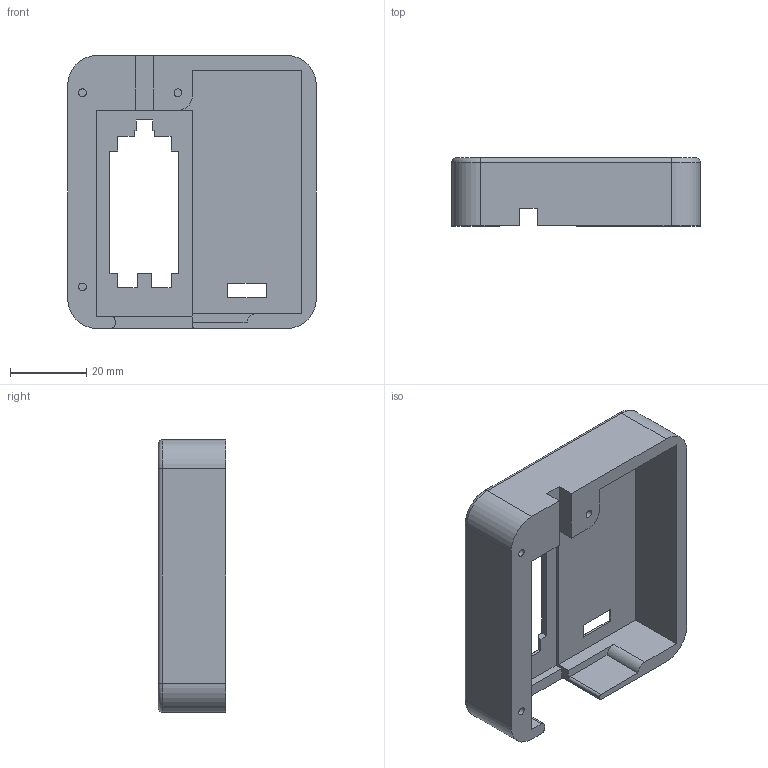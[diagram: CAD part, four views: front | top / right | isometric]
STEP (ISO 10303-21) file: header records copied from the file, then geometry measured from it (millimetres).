
FILE_DESCRIPTION(/* description */ (''),/* implementation_level */ '2;1');
FILE_NAME(/* name */ 'Case Top.step',/* time_stamp */ '2026-02-11T07:26:38-06:00',/* author */ (''),/* organization */ (''),/* preprocessor_version */ 'ST-DEVELOPER v20.1',/* originating_system */ 'Autodesk Translation Framework v14.24.0.0',/* authorisation */ '');
FILE_SCHEMA (('AUTOMOTIVE_DESIGN { 1 0 10303 214 3 1 1 }'));
Length unit declared in the file: inch
Products named in the file (1): Case Top
Bounding box: 64.98 x 17.78 x 71.37 mm (x, y, z)
Volume: 28865.6 mm3; surface area: 15966.3 mm2
Topology: 1 solids, 1 shells, 90 faces, 237 edges, 152 vertices
Faces by surface type: plane 69, cylinder 17, torus 4
Full cylindrical faces by diameter (mm): 2.032 x3
Entity records: 2785 total; most frequent: CARTESIAN_POINT 480, ORIENTED_EDGE 474, DIRECTION 457, EDGE_CURVE 237, LINE 199, VECTOR 199, VERTEX_POINT 152, AXIS2_PLACEMENT_3D 129
